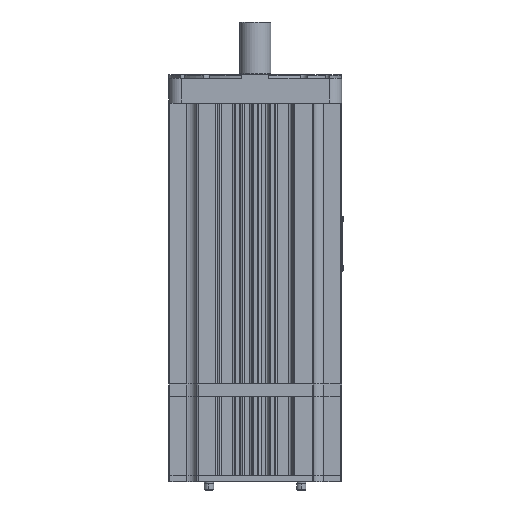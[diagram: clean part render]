
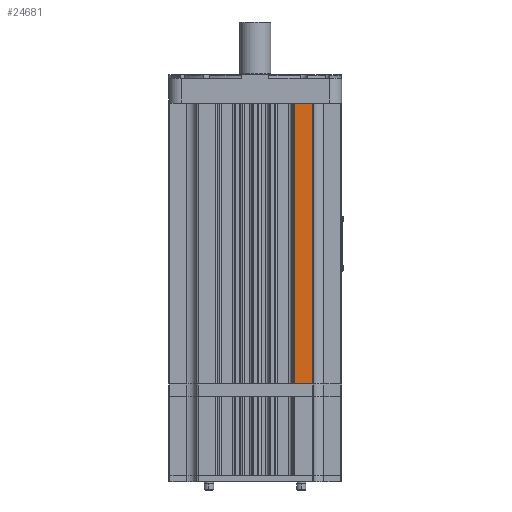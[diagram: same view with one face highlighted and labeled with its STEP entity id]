
A CAD part, front view. The second image highlights one B-rep face of the part: STEP entity #24681.
In plain terms, the highlighted planar face has unit normal (0, -1, 0).
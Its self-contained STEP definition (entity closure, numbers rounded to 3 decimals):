
#12816 = AXIS2_PLACEMENT_3D ( 'NONE', #39289, #39319, #39321 ) ;
#14776 = EDGE_LOOP ( 'NONE', ( #49791, #49911, #49827, #49943 ) ) ;
#24681 = ADVANCED_FACE ( 'NONE', ( #39309 ), #39310, .T. ) ;
#25913 = LINE ( 'NONE', #25914, #69884 ) ;
#25914 = CARTESIAN_POINT ( 'NONE',  ( 3.5, -3.5, -14.656 ) ) ;
#25915 = DIRECTION ( 'NONE',  ( -1., 0., 0. ) ) ;
#25929 = CARTESIAN_POINT ( 'NONE',  ( 2.313, -3.5, 105.25 ) ) ;
#25933 = LINE ( 'NONE', #25929, #69906 ) ;
#25948 = DIRECTION ( 'NONE',  ( 0., 0., 1. ) ) ;
#26028 = LINE ( 'NONE', #26029, #69983 ) ;
#26029 = CARTESIAN_POINT ( 'NONE',  ( 3.5, -3.5, -3.284 ) ) ;
#26038 = DIRECTION ( 'NONE',  ( 1., 0., 0. ) ) ;
#26162 = LINE ( 'NONE', #26163, #70074 ) ;
#26163 = CARTESIAN_POINT ( 'NONE',  ( 1.589, -3.5, -14.75 ) ) ;
#26171 = DIRECTION ( 'NONE',  ( 0., 0., -1. ) ) ;
#28178 = CARTESIAN_POINT ( 'NONE',  ( 1.589, -3.5, -14.656 ) ) ;
#28418 = CARTESIAN_POINT ( 'NONE',  ( 2.313, -3.5, -3.284 ) ) ;
#28555 = CARTESIAN_POINT ( 'NONE',  ( 2.313, -3.5, -14.656 ) ) ;
#28671 = CARTESIAN_POINT ( 'NONE',  ( 1.589, -3.5, -3.284 ) ) ;
#39289 = CARTESIAN_POINT ( 'NONE',  ( 3.5, -3.5, 105.25 ) ) ;
#39309 = FACE_OUTER_BOUND ( 'NONE', #14776, .T. ) ;
#39310 = PLANE ( 'NONE',  #12816 ) ;
#39319 = DIRECTION ( 'NONE',  ( 0., -1., 0. ) ) ;
#39321 = DIRECTION ( 'NONE',  ( 1., 0., 0. ) ) ;
#48879 = VERTEX_POINT ( 'NONE', #28178 ) ;
#49094 = VERTEX_POINT ( 'NONE', #28418 ) ;
#49202 = VERTEX_POINT ( 'NONE', #28555 ) ;
#49304 = VERTEX_POINT ( 'NONE', #28671 ) ;
#49791 = ORIENTED_EDGE ( 'NONE', *, *, #69508, .F. ) ;
#49827 = ORIENTED_EDGE ( 'NONE', *, *, #69420, .F. ) ;
#49911 = ORIENTED_EDGE ( 'NONE', *, *, #69605, .T. ) ;
#49943 = ORIENTED_EDGE ( 'NONE', *, *, #69444, .T. ) ;
#69420 = EDGE_CURVE ( 'NONE', #49202, #48879, #25913, .T. ) ;
#69444 = EDGE_CURVE ( 'NONE', #49202, #49094, #25933, .T. ) ;
#69508 = EDGE_CURVE ( 'NONE', #49304, #49094, #26028, .T. ) ;
#69605 = EDGE_CURVE ( 'NONE', #49304, #48879, #26162, .T. ) ;
#69884 = VECTOR ( 'NONE', #25915, 39.37 ) ;
#69906 = VECTOR ( 'NONE', #25948, 39.37 ) ;
#69983 = VECTOR ( 'NONE', #26038, 39.37 ) ;
#70074 = VECTOR ( 'NONE', #26171, 39.37 ) ;
